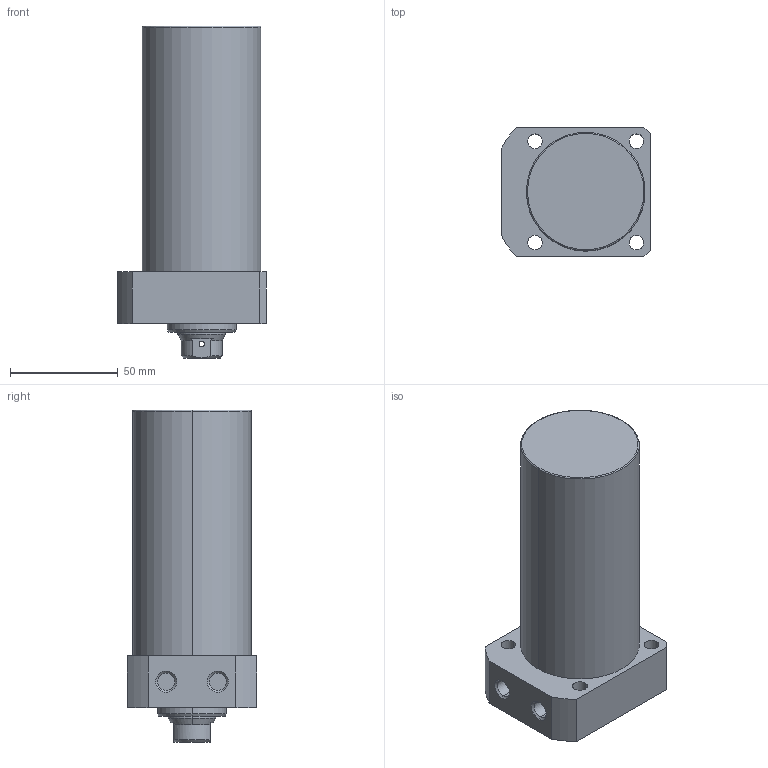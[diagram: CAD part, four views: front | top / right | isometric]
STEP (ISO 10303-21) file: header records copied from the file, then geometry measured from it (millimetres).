
FILE_DESCRIPTION (( 'STEP AP203' ), '1' );
FILE_NAME ('CLLR055-CB-085.STEP', '2017-05-16T03:44:33', ( '' ), ( '' ), 'SwSTEP 2.0', 'SolidWorks 2015', '' );
FILE_SCHEMA (( 'CONFIG_CONTROL_DESIGN' ));
Length unit declared in the file: millimetre
Products named in the file (1): CLLR055-CB-085
Bounding box: 69 x 60 x 154 mm (x, y, z)
Volume: 368429.9 mm3; surface area: 38033.3 mm2
Topology: 1 solids, 1 shells, 69 faces, 162 edges, 101 vertices
Faces by surface type: cylinder 33, plane 19, cone 15, torus 2
Entity records: 2175 total; most frequent: CARTESIAN_POINT 451, DIRECTION 368, ORIENTED_EDGE 320, EDGE_CURVE 160, AXIS2_PLACEMENT_3D 150, VERTEX_POINT 101, EDGE_LOOP 89, CIRCLE 80
